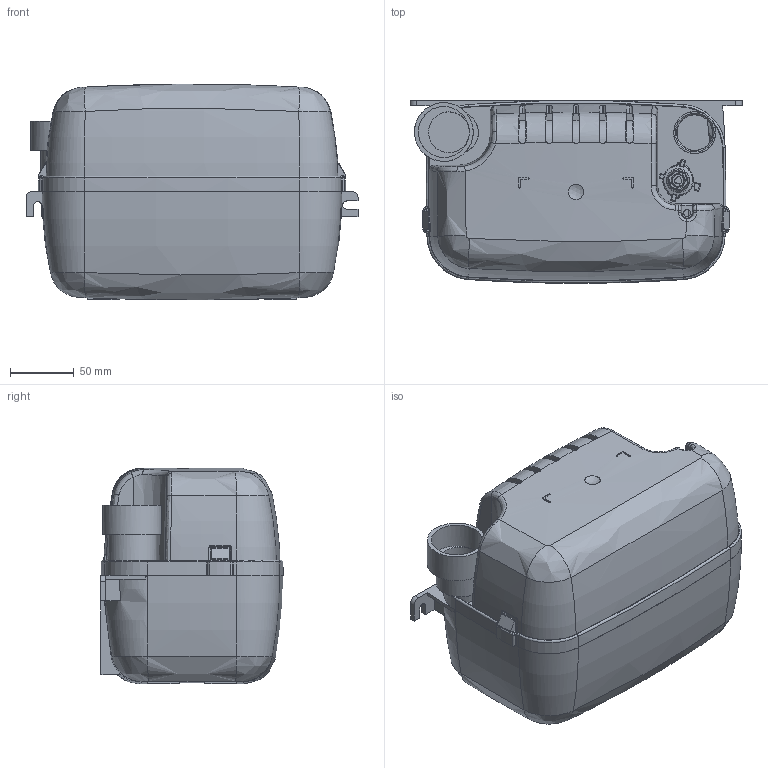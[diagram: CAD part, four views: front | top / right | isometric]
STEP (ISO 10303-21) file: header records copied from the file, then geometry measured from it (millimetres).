
FILE_DESCRIPTION (( 'STEP AP214' ), '1' );
FILE_NAME ('Sanicondens PRO USA SK5.STEP', '2018-11-09T15:22:14', ( 'VHUMBERT' ), ( '' ), 'SwSTEP 2.0', 'SolidWorks 2018', '' );
FILE_SCHEMA (( 'AUTOMOTIVE_DESIGN' ));
Length unit declared in the file: inch
Products named in the file (1): Sanicondens PRO USA SK5
Bounding box: 260 x 143.01 x 169 mm (x, y, z)
Volume: 510243.8 mm3; surface area: 350564.4 mm2
Topology: 1 solids, 1 shells, 970 faces, 2692 edges, 1678 vertices
Faces by surface type: plane 301, bspline 256, cylinder 222, torus 94, cone 84, sphere 13
Full cylindrical faces by diameter (mm): 5.5 x1, 9.8 x1, 10 x1, 32 x1, 38 x1, 40 x1, 46 x1
Entity records: 53502 total; most frequent: CARTESIAN_POINT 18561, ORIENTED_EDGE 5314, DIRECTION 3934, EDGE_CURVE 2657, VERTEX_POINT 1671, AXIS2_PLACEMENT_3D 1553, EDGE_LOOP 1012, FACE_OUTER_BOUND 980
